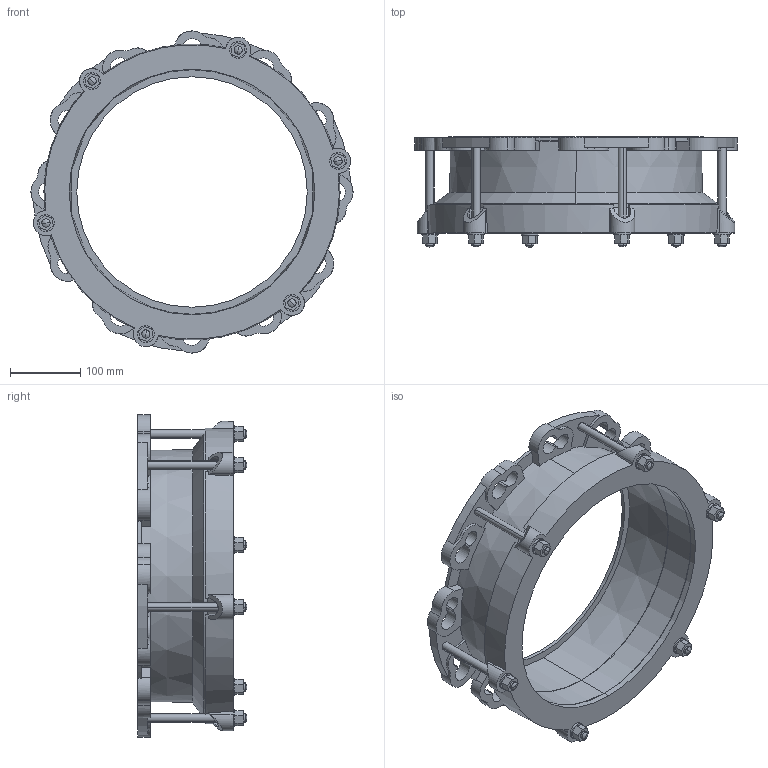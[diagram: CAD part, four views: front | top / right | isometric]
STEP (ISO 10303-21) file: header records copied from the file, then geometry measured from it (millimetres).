
FILE_DESCRIPTION((''),'2;1');
FILE_NAME('BIM_12419_11','2018-10-09T',('MReader'),(''),'CREO PARAMETRIC BY PTC INC, 2016130','CREO PARAMETRIC BY PTC INC, 2016130','');
FILE_SCHEMA(('CONFIG_CONTROL_DESIGN'));
Length unit declared in the file: millimetre
Products named in the file (1): BIM_12419_11
Bounding box: 459.97 x 157 x 460 mm (x, y, z)
Volume: 3185393.1 mm3; surface area: 807322.5 mm2
Topology: 2 solids, 2 shells, 339 faces, 930 edges, 606 vertices
Faces by surface type: cylinder 158, plane 141, cone 28, sphere 12
Entity records: 11424 total; most frequent: CARTESIAN_POINT 2493, DIRECTION 1938, ORIENTED_EDGE 1836, EDGE_CURVE 918, AXIS2_PLACEMENT_3D 753, VERTEX_POINT 606, VECTOR 432, LINE 432
